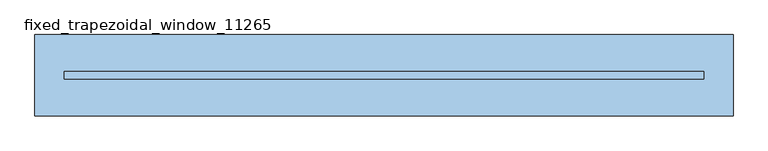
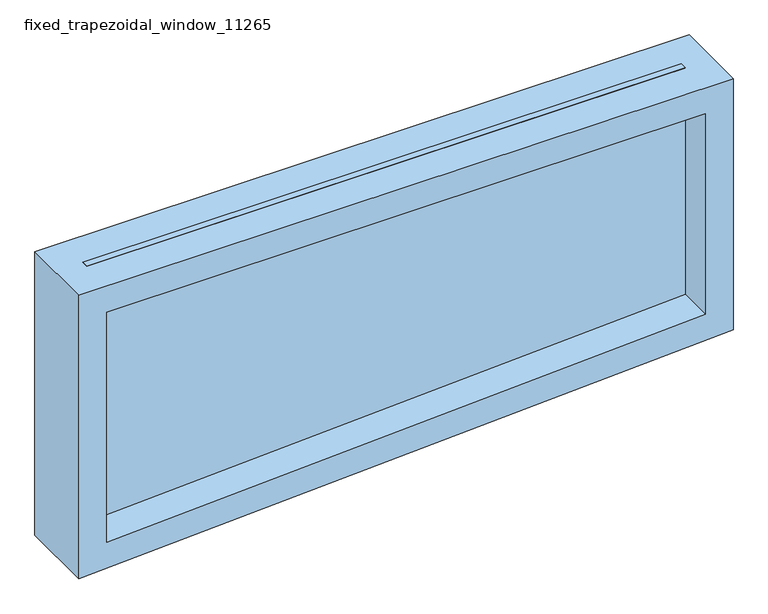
"""IFC4 building model written with IfcOpenShell, lengths in millimetres: window geometry, fixed_trapezoidal_window_11265 : Menuiserie 10.3."""

from ifc_helpers import new_model, si_unit, frame, origin, place, context, project, spatial, polyline, outline, extrude, source, transform, mapped, element, save


def fixed_trapezoidal_window_11265_81f1b40e(model_context):
    return source(origin(), model_context, "Body", "SweptSolid", [
        extrude(outline(polyline([(1769.2, -587.3), (1272.7320304, -587.3), (1330.2967351, 511.1), (1769.2, 511.1), (1769.2, -587.3)])), frame((0.0, -6.35, 0.0), z_axis=(0.0, 1.0, 0.0), x_axis=(0.0, 0.0, 1.0)), (0.0, 0.0, 1.0), 12.7),
        extrude(outline(polyline([(1769.2, 561.9), (1769.2, -638.1), (1219.2, -638.1), (1282.0893351, 561.9), (1769.2, 561.9)]), holes=[polyline([(1718.4, 511.1), (1330.2967351, 511.1), (1272.7320304, -587.3), (1718.4, -587.3), (1718.4, 511.1)])]), frame((0.0, -69.85, 0.0), z_axis=(0.0, 1.0, 0.0), x_axis=(0.0, 0.0, 1.0)), (0.0, 0.0, 1.0), 139.7),
    ])


if __name__ == "__main__":
    model = new_model("IFC4")
    model_context = context("Model", 3, world=origin())
    ifc_project = project(units=[si_unit("LENGTHUNIT", "METRE", prefix="MILLI")], contexts=[model_context])
    site = spatial("IfcSite", under=ifc_project)
    building = spatial("IfcBuilding", under=site)
    placement = place(None, origin())
    fixed_trapezoidal_window_11265_shape = fixed_trapezoidal_window_11265_81f1b40e(model_context)
    element("IfcWindow", 1, ObjectType="fixed_trapezoidal_window_11265 : Menuiserie 10.3", at=placement, inside=building, context=model_context, shape_type="MappedRepresentation", body=[
        mapped(fixed_trapezoidal_window_11265_shape, transform((0.0, 0.0, 0.0), x_axis=(1.0, 0.0, 0.0), y_axis=(0.0, 1.0, 0.0), z_axis=(0.0, 0.0, 1.0))),
    ])
    save(model, "model.ifc")
